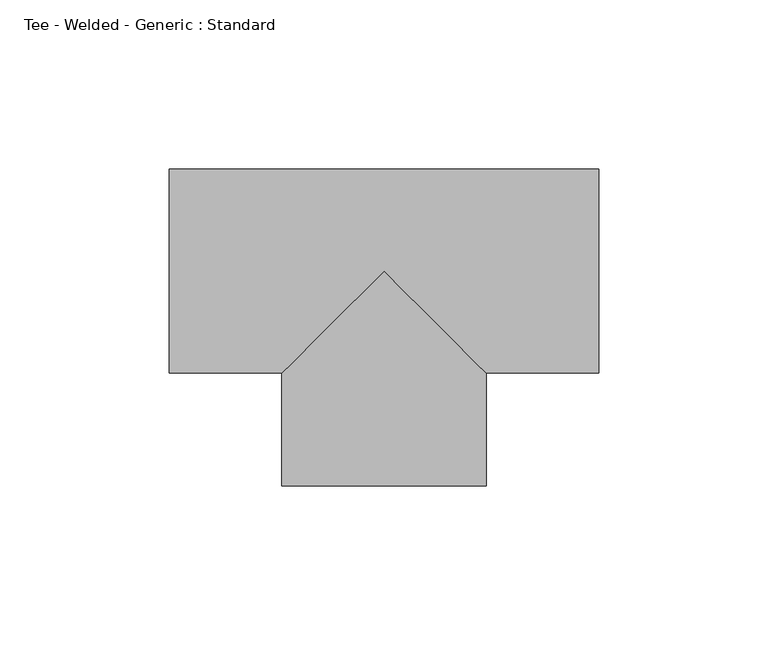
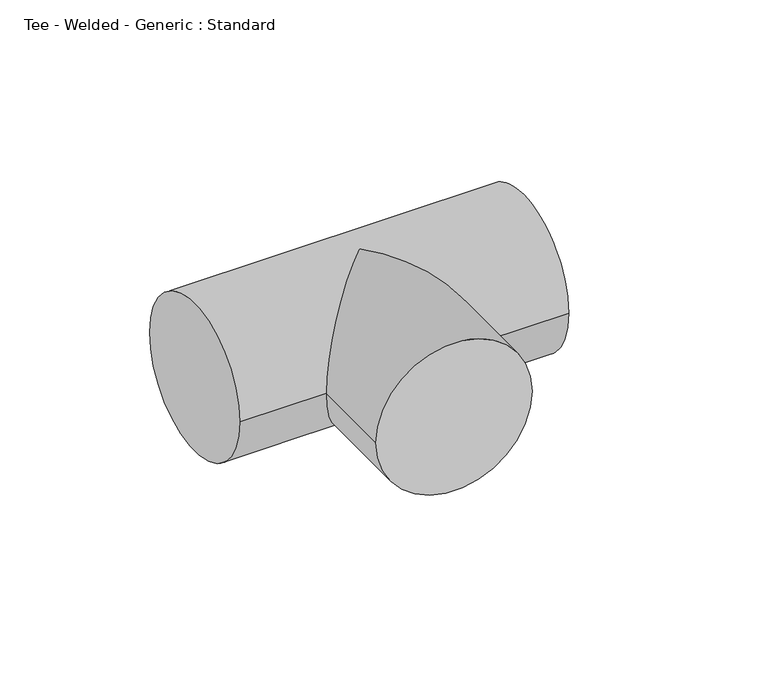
"""IFC4 building model written with IfcOpenShell, lengths in millimetres: pipe fitting geometry, Tee - Welded - Generic : Standard."""

import ifcopenshell
import ifcopenshell.guid

model = None  # the IFC model being written
_history = None  # IfcOwnerHistory: only IFC2X3 demands one
_inside = {}  # id of a spatial element -> (the spatial element, [elements in it])
_under = {}  # id of a project, library or spatial element -> (it, [spatial elements below it])
_declared = {}  # id of a project -> (the project, [libraries it declares])
_typed = {}  # id of a type object -> (the type object, [elements of that type])
_made_of = {}  # id of a material, layer set ... -> (it, [elements and type objects made of it])


def new_model(schema):
    """Start an empty IFC model of exactly this schema.

    Asked for "IFC4X3", IfcOpenShell would pick the latest addendum, in which some entities
    have other attributes; the version numbers below select the first issue.
    IFC2X3 requires an IfcOwnerHistory on every rooted entity: one is made here for all.
    """
    global model, _history
    if schema == "IFC4X3":
        model = ifcopenshell.file(schema_version=(4, 3, 0, 0))
    else:
        model = ifcopenshell.file(schema=schema)
    _inside.clear()
    _under.clear()
    _declared.clear()
    _typed.clear()
    _made_of.clear()
    _history = None
    if model.schema == "IFC2X3":
        org = make("IfcOrganization", Name="unknown")
        user = make(
            "IfcPersonAndOrganization",
            ThePerson=make("IfcPerson", FamilyName="unknown"),
            TheOrganization=org,
        )
        app = make(
            "IfcApplication",
            ApplicationDeveloper=org,
            Version="unknown",
            ApplicationFullName="unknown",
            ApplicationIdentifier="unknown",
        )
        _history = make(
            "IfcOwnerHistory",
            OwningUser=user,
            OwningApplication=app,
            ChangeAction="ADDED",
            CreationDate=0,
        )
    return model


def make(cls, **values):
    """One entity of the class cls with the attributes given. An attribute that is None is left unset."""
    return model.create_entity(
        cls, **{name: value for name, value in values.items() if value is not None}
    )


def rooted(cls, **values):
    """An entity with a GlobalId (a new one), such as an element, a storey or a relation."""
    return make(cls, GlobalId=ifcopenshell.guid.new(), OwnerHistory=_history, **values)


def si_unit(unit_type, name, prefix=None):
    """IfcSIUnit, for example si_unit("LENGTHUNIT", "METRE", prefix="MILLI")."""
    return make("IfcSIUnit", UnitType=unit_type, Prefix=prefix, Name=name)


def assignment(units):
    """IfcUnitAssignment: the units of a project."""
    return None if units is None else make("IfcUnitAssignment", Units=units)


def point(xyz):
    """IfcCartesianPoint."""
    return None if xyz is None else make("IfcCartesianPoint", Coordinates=xyz)


def direction(xyz):
    """IfcDirection."""
    return None if xyz is None else make("IfcDirection", DirectionRatios=xyz)


def frame(location, z_axis=None, x_axis=None):
    """IfcAxis2Placement3D, a coordinate frame: its origin and axes. An axis left out is left unset."""
    return make(
        "IfcAxis2Placement3D",
        Location=point(location),
        Axis=direction(z_axis),
        RefDirection=direction(x_axis),
    )


def origin():
    """The frame at (0, 0, 0) with its axes left unset."""
    return frame((0.0, 0.0, 0.0))


def place(relative_to, where):
    """IfcLocalPlacement: puts the frame where relative to a parent placement (None: the world)."""
    return make(
        "IfcLocalPlacement", PlacementRelTo=relative_to, RelativePlacement=where
    )


def context(
    kind, dimensions, precision=None, world=None, true_north=None, identifier=None
):
    """IfcGeometricRepresentationContext, for example the 3D "Model" context."""
    return make(
        "IfcGeometricRepresentationContext",
        ContextIdentifier=identifier,
        ContextType=kind,
        CoordinateSpaceDimension=dimensions,
        Precision=precision,
        WorldCoordinateSystem=world,
        TrueNorth=true_north,
    )


def project(units=None, contexts=None):
    """IfcProject with its units and contexts."""
    return rooted(
        "IfcProject",
        Name="project",
        RepresentationContexts=contexts,
        UnitsInContext=assignment(units),
    )


def spatial(cls, under=None, at=None, **own):
    """A site, building, storey or space (cls), placed at a placement, below another one or the project."""
    s = rooted(cls, ObjectPlacement=at, **own)
    if under is not None:
        _under.setdefault(under.id(), (under, []))[1].append(s)
    return s


def circle_curve(where, radius):
    """IfcCircle in the frame where."""
    return make("IfcCircle", Position=where, Radius=radius)


def ellipse_curve(where, semi_axis1, semi_axis2):
    """IfcEllipse in the frame where."""
    return make(
        "IfcEllipse", Position=where, SemiAxis1=semi_axis1, SemiAxis2=semi_axis2
    )


def shape(context_of_items, identifier, shape_type, items):
    """IfcShapeRepresentation: the items that make up one representation, for example the "Body"."""
    return make(
        "IfcShapeRepresentation",
        ContextOfItems=context_of_items,
        RepresentationIdentifier=identifier,
        RepresentationType=shape_type,
        Items=items,
    )


def source(mapping_origin, context_of_items, identifier, shape_type, items):
    """IfcRepresentationMap: a shape defined once, which mapped items show again and again."""
    return make(
        "IfcRepresentationMap",
        MappingOrigin=mapping_origin,
        MappedRepresentation=shape(context_of_items, identifier, shape_type, items),
    )


def transform(
    local_origin,
    x_axis=None,
    y_axis=None,
    z_axis=None,
    scale=None,
    scale2=None,
    scale3=None,
    uniform=True,
):
    """IfcCartesianTransformationOperator3D, or its non-uniform kind. x_axis, y_axis, z_axis: its Axis1, 2, 3."""
    if uniform:
        return make(
            "IfcCartesianTransformationOperator3D",
            Axis1=direction(x_axis),
            Axis2=direction(y_axis),
            LocalOrigin=point(local_origin),
            Scale=scale,
            Axis3=direction(z_axis),
        )
    return make(
        "IfcCartesianTransformationOperator3DnonUniform",
        Axis1=direction(x_axis),
        Axis2=direction(y_axis),
        LocalOrigin=point(local_origin),
        Scale=scale,
        Axis3=direction(z_axis),
        Scale2=scale2,
        Scale3=scale3,
    )


def mapped(mapping_source, mapping_target):
    """IfcMappedItem: shows the shape of a source again, moved by a transform."""
    return make(
        "IfcMappedItem", MappingSource=mapping_source, MappingTarget=mapping_target
    )


def made_of(thing, what):
    """Note that an element or type object is made of a material, layer set ...; save() writes the relation."""
    if what is not None:
        _made_of.setdefault(what.id(), (what, []))[1].append(thing)
    return thing


def element(
    cls,
    number,
    at=None,
    inside=None,
    cuts=None,
    type_object=None,
    material=None,
    context=None,
    identifier="Body",
    shape_type=None,
    held_by="IfcProductDefinitionShape",
    body=None,
    shapes=None,
    **own,
):
    """One element of the class cls, such as IfcWall. Its Tag is "e" and its number.

    at: its placement. inside: the storey or other place that contains it. cuts: it is an
    opening in that element (IfcRelVoidsElement). A single representation is given by context,
    identifier, shape_type and body (its items); several are given by shapes. held_by: the class
    of the entity that holds the representations. save() writes the other relations.
    """
    e = rooted(cls, Tag="e%d" % number, ObjectPlacement=at, **own)
    if body is not None:
        shapes = [shape(context, identifier, shape_type, body)]
    if shapes is not None:
        e.Representation = make(held_by, Representations=shapes)
    if inside is not None:
        _inside.setdefault(inside.id(), (inside, []))[1].append(e)
    if cuts is not None:
        rooted(
            "IfcRelVoidsElement", RelatingBuildingElement=cuts, RelatedOpeningElement=e
        )
    if type_object is not None:
        _typed.setdefault(type_object.id(), (type_object, []))[1].append(e)
    return made_of(e, material)


def aggregate(whole, parts):
    """IfcRelAggregates: a whole, such as a stair, and the parts it consists of."""
    return rooted("IfcRelAggregates", RelatingObject=whole, RelatedObjects=parts)


def save(model, path):
    """Write the relations noted so far, then the file.

    IfcRelAggregates (storeys below a building ...), IfcRelContainedInSpatialStructure (elements
    in a storey), IfcRelDefinesByType, IfcRelAssociatesMaterial and IfcRelDeclares: one each for
    every whole, place, type object, material and project.
    """
    for whole, parts in _under.values():
        aggregate(whole, parts)
    for where, things in _inside.values():
        rooted(
            "IfcRelContainedInSpatialStructure",
            RelatedElements=things,
            RelatingStructure=where,
        )
    for kind, things in _typed.values():
        rooted("IfcRelDefinesByType", RelatedObjects=things, RelatingType=kind)
    for what, things in _made_of.values():
        rooted("IfcRelAssociatesMaterial", RelatedObjects=things, RelatingMaterial=what)
    for by, libraries in _declared.values():
        rooted("IfcRelDeclares", RelatingContext=by, RelatedDefinitions=libraries)
    model.write(path)


def plane_surface(at):
    """IfcPlane: the flat surface through the origin of the frame at, square to its z axis."""
    return make("IfcPlane", Position=at)


def cylinder_surface(at, radius):
    """IfcCylindricalSurface: all points at the distance radius from the z axis of the frame at."""
    return make("IfcCylindricalSurface", Position=at, Radius=radius)


def advanced_brep(points, edges, surfaces, faces):
    """IfcAdvancedBrep: a solid bounded by faces that lie on surfaces and meet in shared edges.

    An edge is (start, end): straight between two places in points (the first is 0);
    or (start, end, curve); or (start, end, curve, False) where it runs against its curve.
    A face is (place in surfaces, loops), or (place, loops, False) where it looks against
    its surface's normal. A loop lists edges by number (the first is 1), with a minus sign
    where the edge is run from its end to its start. The first loop is the outer one.
    """
    corners = [point(p) for p in points]
    vertices = [make("IfcVertexPoint", VertexGeometry=c) for c in corners]
    made = []
    for start, end, *more in edges:
        made.append(
            make(
                "IfcEdgeCurve",
                EdgeStart=vertices[start],
                EdgeEnd=vertices[end],
                EdgeGeometry=more[0] if more else make("IfcPolyline", Points=[corners[start], corners[end]]),
                SameSense=more[1] if len(more) > 1 else True,
            )
        )
    hull = []
    for where, loops, *sense in faces:
        bounds = []
        for j, loop in enumerate(loops):
            ring = [make("IfcOrientedEdge", EdgeElement=made[abs(k) - 1], Orientation=k > 0) for k in loop]
            bounds.append(
                make(
                    "IfcFaceOuterBound" if j == 0 else "IfcFaceBound",
                    Bound=make("IfcEdgeLoop", EdgeList=ring),
                    Orientation=True,
                )
            )
        hull.append(make("IfcAdvancedFace", Bounds=bounds, FaceSurface=surfaces[where], SameSense=sense[0] if sense else True))
    return make("IfcAdvancedBrep", Outer=make("IfcClosedShell", CfsFaces=hull))


def tee_welded_generic_standard_cfc70250(model_context):
    return source(origin(), model_context, "Body", "AdvancedBrep", [
        advanced_brep(
        [(-63.5, -30.1625, 0.0), (-63.5, 30.1625, 0.0), (63.5, -30.1625, 0.0), (63.5, 30.1625, 0.0), (-30.1616539, -30.1625, 0.0), (0.0, 0.0, 30.1625), (30.1633461, -30.1625, 0.0), (0.0, 0.0, -30.1625), (-30.1607187, -63.5008461, 0.0), (30.1642812, -63.4991539, 0.0)],
        [
            (0, 1, circle_curve(frame((-63.5, 0.0, 0.0), z_axis=(-1.0, 0.0, 0.0), x_axis=(0.0, 1.0, 0.0)), 30.1625)),
            (1, 0, circle_curve(frame((-63.5, 0.0, 0.0), z_axis=(-1.0, 0.0, 0.0), x_axis=(0.0, 1.0, 0.0)), 30.1625)),
            (2, 3, circle_curve(frame((63.5, 0.0, 0.0), z_axis=(1.0, 0.0, 0.0), x_axis=(0.0, 1.0, 0.0)), 30.1625)),
            (3, 2, circle_curve(frame((63.5, 0.0, 0.0), z_axis=(1.0, 0.0, 0.0), x_axis=(0.0, 1.0, 0.0)), 30.1625)),
            (0, 4),
            (4, 5, ellipse_curve(frame((0.0, 0.0, 0.0), z_axis=(-0.7071166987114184, 0.7070968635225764, 0.0), x_axis=(-0.7070968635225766, -0.7071166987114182, 0.0)), 42.6556183, 30.1625)),
            (5, 6, ellipse_curve(frame((0.0, 0.0, 0.0), z_axis=(0.7070968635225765, 0.7071166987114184, 0.0), x_axis=(-0.7071166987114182, 0.7070968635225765, 0.0)), 42.6568149, 30.1625)),
            (6, 2),
            (3, 1),
            (6, 7, ellipse_curve(frame((0.0, 0.0, 0.0), z_axis=(0.7070968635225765, 0.7071166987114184, 0.0), x_axis=(-0.7071166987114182, 0.7070968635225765, 0.0)), 42.6568149, 30.1625)),
            (7, 4, ellipse_curve(frame((0.0, 0.0, 0.0), z_axis=(-0.7071166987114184, 0.7070968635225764, 0.0), x_axis=(-0.7070968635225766, -0.7071166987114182, 0.0)), 42.6556183, 30.1625)),
            (8, 9, circle_curve(frame((0.0017813, -63.5, 0.0), z_axis=(2.8051193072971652e-05, -0.9999999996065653, 0.0), x_axis=(0.9999999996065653, 2.8051193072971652e-05, 0.0)), 30.1625)),
            (9, 8, circle_curve(frame((0.0017813, -63.5, 0.0), z_axis=(2.8051193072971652e-05, -0.9999999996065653, 0.0), x_axis=(0.9999999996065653, 2.8051193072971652e-05, 0.0)), 30.1625)),
            (9, 6),
            (4, 8),
        ],
        [
            plane_surface(frame((-63.5, 0.0, 0.0), z_axis=(-1.0, 0.0, 0.0), x_axis=(0.0, 0.0, 1.0))),
            plane_surface(frame((63.5, 0.0, 0.0), z_axis=(1.0, 0.0, 0.0), x_axis=(0.0, 0.0, 1.0))),
            cylinder_surface(frame((-63.5, 0.0, 0.0), z_axis=(-1.0, 0.0, 0.0), x_axis=(0.0, 1.0, 0.0)), 30.1625),
            plane_surface(frame((0.0017813, -63.5, 0.0), z_axis=(2.8051193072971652e-05, -0.9999999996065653, 0.0), x_axis=(0.0, 0.0, 1.0))),
            cylinder_surface(frame((0.0, 0.0, 0.0), z_axis=(-2.8051193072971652e-05, 0.9999999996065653, 0.0), x_axis=(0.9999999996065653, 2.8051193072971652e-05, 0.0)), 30.1625),
        ],
        [
            (0, [[1, 2]]),
            (1, [[3, 4]]),
            (2, [[-1, 5, 6, 7, 8, -4, 9]]),
            (2, [[-2, -9, -3, -8, 10, 11, -5]]),
            (3, [[12, 13]]),
            (4, [[-13, 14, -7, -6, 15]]),
            (4, [[-12, -15, -11, -10, -14]]),
        ],
    ),
    ])


if __name__ == "__main__":
    model = new_model("IFC4")
    model_context = context("Model", 3, world=origin())
    ifc_project = project(units=[si_unit("LENGTHUNIT", "METRE", prefix="MILLI")], contexts=[model_context])
    site = spatial("IfcSite", under=ifc_project)
    building = spatial("IfcBuilding", under=site)
    placement = place(None, origin())
    tee_welded_generic_standard_shape = tee_welded_generic_standard_cfc70250(model_context)
    element("IfcPipeFitting", 1, ObjectType="Tee - Welded - Generic : Standard", at=placement, inside=building, context=model_context, shape_type="MappedRepresentation", body=[
        mapped(tee_welded_generic_standard_shape, transform((0.0, 0.0, 0.0), x_axis=(1.0, 0.0, 0.0), y_axis=(0.0, 1.0, 0.0), z_axis=(0.0, 0.0, 1.0))),
    ])
    save(model, "model.ifc")
